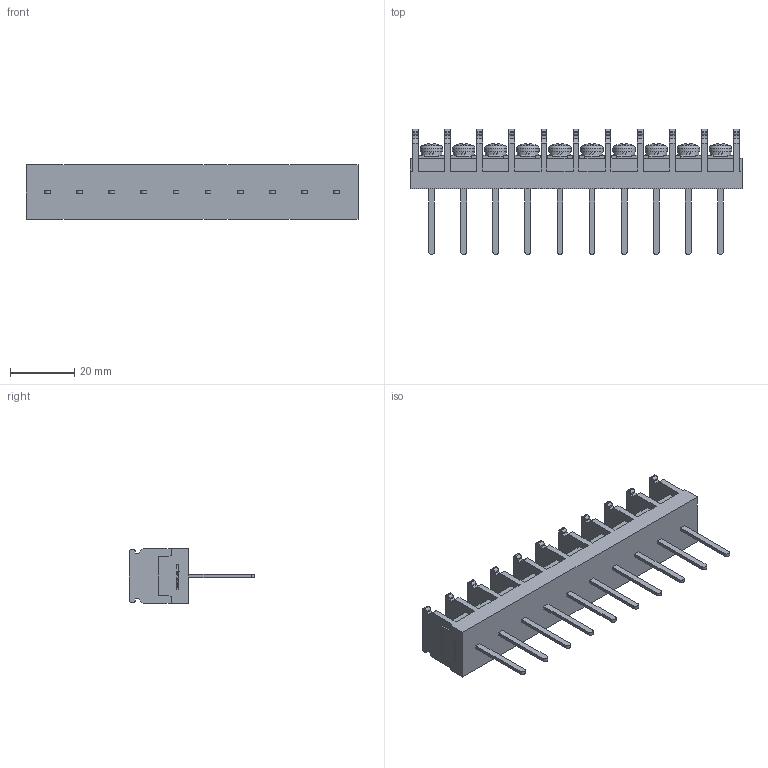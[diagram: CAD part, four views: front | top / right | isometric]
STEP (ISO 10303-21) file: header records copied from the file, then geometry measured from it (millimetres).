
FILE_DESCRIPTION(/* description */ ('Alibre Inc.'),/* implementation_level */ '2;1');
FILE_NAME(/* name */ 'export0',/* time_stamp */ '2015-10-17T17:26:35+09:00',/* author */ (''),/* organization */ (''),/* preprocessor_version */ 'ST-DEVELOPER v14',/* originating_system */ 'Alibre',/* authorisation */ '');
FILE_SCHEMA (('CONFIG_CONTROL_DESIGN'));
Length unit declared in the file: centimetre
Products named in the file (1): ID_1
Bounding box: 103.4 x 39 x 17 mm (x, y, z)
Volume: 20020.7 mm3; surface area: 12397.4 mm2
Topology: 1 solids, 17 shells, 1078 faces, 2952 edges, 1958 vertices
Faces by surface type: plane 800, cylinder 104, bspline 104, cone 40, torus 20, sphere 10
Full cylindrical faces by diameter (mm): 4 x10, 6.5 x10, 7 x10
Entity records: 33055 total; most frequent: CARTESIAN_POINT 7145, ORIENTED_EDGE 5764, DIRECTION 4252, EDGE_CURVE 2882, VECTOR 2086, LINE 2086, VERTEX_POINT 1928, AXIS2_PLACEMENT_3D 1483
